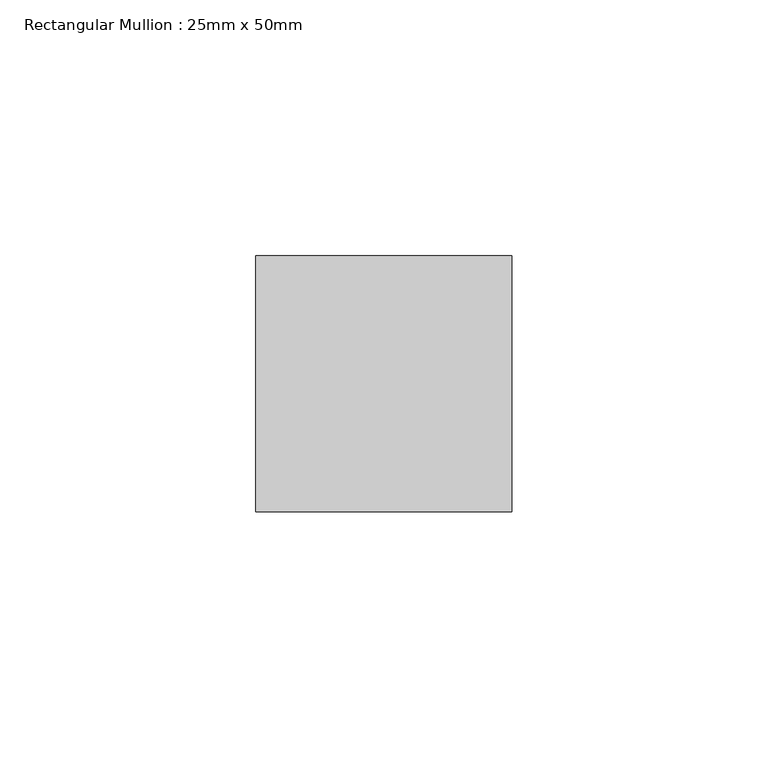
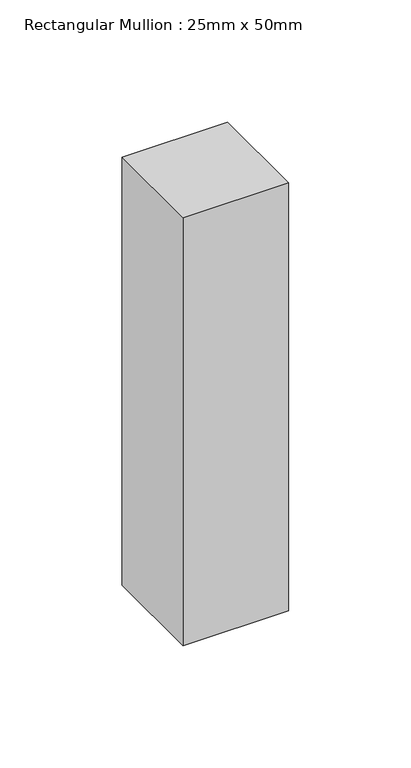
"""IFC4 building model written with IfcOpenShell, lengths in millimetres: member geometry, Rectangular Mullion : 25mm x 50mm."""

from ifc_helpers import new_model, si_unit, frame, origin, place, context, project, spatial, polyline, outline, extrude, source, transform, mapped, element, save


def rectangular_mullion_25mm_x_50mm_93b46dd3(model_context):
    return source(origin(), model_context, "Body", "SweptSolid", [
        extrude(outline(polyline([(25.0, 25.0), (25.0, -25.0), (-25.0, -25.0), (-25.0, 25.0), (25.0, 25.0)])), frame((0.0, 0.0, -213.9835421), z_axis=(0.0, 0.0, 1.0), x_axis=(1.0, 0.0, 0.0)), (0.0, 0.0, 1.0), 213.9835421),
    ])


if __name__ == "__main__":
    model = new_model("IFC4")
    model_context = context("Model", 3, world=origin())
    ifc_project = project(units=[si_unit("LENGTHUNIT", "METRE", prefix="MILLI")], contexts=[model_context])
    site = spatial("IfcSite", under=ifc_project)
    building = spatial("IfcBuilding", under=site)
    placement = place(None, origin())
    rectangular_mullion_25mm_x_50mm_shape = rectangular_mullion_25mm_x_50mm_93b46dd3(model_context)
    element("IfcMember", 1, ObjectType="Rectangular Mullion : 25mm x 50mm", at=placement, inside=building, context=model_context, shape_type="MappedRepresentation", body=[
        mapped(rectangular_mullion_25mm_x_50mm_shape, transform((0.0, 0.0, 0.0), x_axis=(1.0, 0.0, 0.0), y_axis=(0.0, 1.0, 0.0), z_axis=(0.0, 0.0, 1.0))),
    ])
    save(model, "model.ifc")
